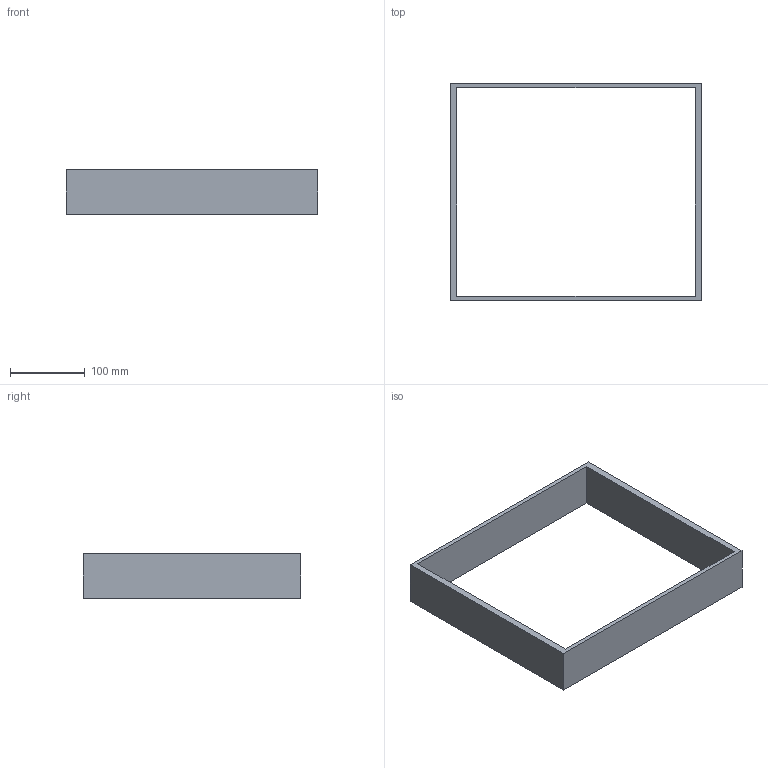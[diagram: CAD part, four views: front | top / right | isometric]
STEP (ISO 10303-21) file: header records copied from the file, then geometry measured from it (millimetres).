
FILE_DESCRIPTION(('Open CASCADE Model'),'2;1');
FILE_NAME('Open CASCADE Shape Model','2026-10-16T18:52:00',('Author'),( 'Open CASCADE'),'Open CASCADE STEP processor 7.8','Open CASCADE 7.8' ,'Unknown');
FILE_SCHEMA(('AUTOMOTIVE_DESIGN { 1 0 10303 214 1 1 1 1 }'));
Length unit declared in the file: millimetre
Products named in the file (1): Open CASCADE STEP translator 7.8 7
Bounding box: 338 x 292 x 60 mm (x, y, z)
Volume: 545760 mm3; surface area: 165792 mm2
Topology: 1 solids, 1 shells, 10 faces, 24 edges, 16 vertices
Faces by surface type: plane 10
Entity records: 598 total; most frequent: CARTESIAN_POINT 115, DIRECTION 78, LINE 56, VECTOR 56, ORIENTED_EDGE 48, PCURVE 48, DEFINITIONAL_REPRESENTATION 48, EDGE_CURVE 24
